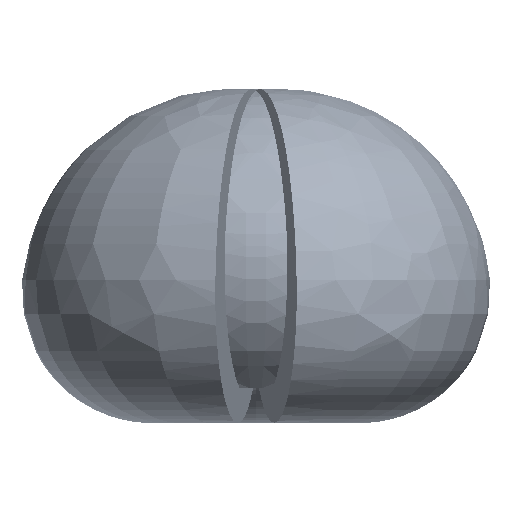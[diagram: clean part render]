
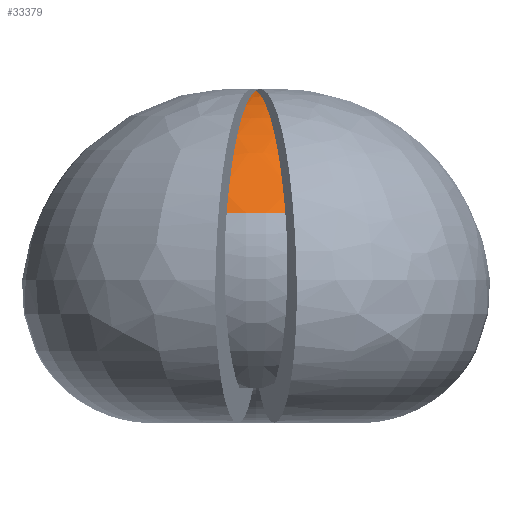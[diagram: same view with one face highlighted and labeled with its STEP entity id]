
A CAD part, left-side view. The second image highlights one B-rep face of the part: STEP entity #33379.
In plain terms, the highlighted free-form (B-spline) face has degree [3, 3] with [7, 4] control points.
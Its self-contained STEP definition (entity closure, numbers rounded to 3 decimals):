
#12464 = CARTESIAN_POINT ( 'NONE',  ( -1255.392, 221.359, 3530.053 ) ) ;
#27580 = CARTESIAN_POINT ( 'NONE',  ( -1281.28, -74.541, 3530.053 ) ) ;
#33379 = ADVANCED_FACE ( 'NONE', ( #257621 ), #205623, .T. ) ;
#35437 = EDGE_CURVE ( 'NONE', #55535, #223031, #36430, .T. ) ;
#36430 = CIRCLE ( 'NONE', #325231, 2525.163 ) ;
#48469 = CARTESIAN_POINT ( 'NONE',  ( -2486.8, -438.49, 2085.747 ) ) ;
#51179 = DIRECTION ( 'NONE',  ( 0., 0., -1. ) ) ;
#55535 = VERTEX_POINT ( 'NONE', #58892 ) ;
#58892 = CARTESIAN_POINT ( 'NONE',  ( -2486.8, -438.49, 2085.747 ) ) ;
#61325 = CARTESIAN_POINT ( 'NONE',  ( -2014.975, 117.226, 2957.866 ) ) ;
#63888 = CARTESIAN_POINT ( 'NONE',  ( -2337.263, 412.122, 2420.611 ) ) ;
#65994 = EDGE_LOOP ( 'NONE', ( #382897, #277897, #324086 ) ) ;
#100137 = CARTESIAN_POINT ( 'NONE',  ( -2014.975, -117.226, 2957.866 ) ) ;
#102645 = CARTESIAN_POINT ( 'NONE',  ( -2538.082, 147.659, 2085.747 ) ) ;
#105164 = CARTESIAN_POINT ( 'NONE',  ( -2385.46, 138.78, 2420.611 ) ) ;
#107716 = CARTESIAN_POINT ( 'NONE',  ( -596.452, 105.171, 3814.844 ) ) ;
#110205 = CARTESIAN_POINT ( 'NONE',  ( -2385.46, -138.78, 2420.611 ) ) ;
#120447 = CARTESIAN_POINT ( 'NONE',  ( 0., 0., 3918.321 ) ) ;
#128585 = CARTESIAN_POINT ( 'NONE',  ( -165.599, -29.2, 3899.58 ) ) ;
#185146 = CARTESIAN_POINT ( 'NONE',  ( -1255.392, 221.359, 3530.053 ) ) ;
#187679 = CARTESIAN_POINT ( 'NONE',  ( -169.014, -9.833, 3899.58 ) ) ;
#203879 = CARTESIAN_POINT ( 'NONE',  ( -2486.8, 438.49, 2085.747 ) ) ;
#205623 =( BOUNDED_SURFACE ( )  B_SPLINE_SURFACE ( 3, 3, ( 
 ( #420313, #415273, #102645, #296406 ),
 ( #417779, #110205, #105164, #63888 ),
 ( #454109, #100137, #61325, #500498 ),
 ( #267730, #27580, #260139, #185146 ),
 ( #342734, #218840, #303995, #107716 ),
 ( #265213, #187679, #422861, #503052 ),
 ( #316718, #280549, #350370, #120447 ) ),
 .UNSPECIFIED., .F., .F., .F. ) 
 B_SPLINE_SURFACE_WITH_KNOTS ( ( 4, 1, 1, 1, 4 ),
 ( 4, 4 ),
 ( 0.605, 0.739, 0.839, 0.939, 1. ),
 ( 0., 1. ),
 .UNSPECIFIED. ) 
 GEOMETRIC_REPRESENTATION_ITEM ( )  RATIONAL_B_SPLINE_SURFACE ( (
 ( 1., 0.99, 0.99, 1.),
 ( 1., 0.99, 0.99, 1.),
 ( 1., 0.99, 0.99, 1.),
 ( 1., 0.99, 0.99, 1.),
 ( 1., 0.99, 0.99, 1.),
 ( 1., 0.99, 0.99, 1.),
 ( 1., 0.99, 0.99, 1.) ) ) 
 REPRESENTATION_ITEM ( '' )  SURFACE ( )  );
#208715 = DIRECTION ( 'NONE',  ( -1., 0., 0. ) ) ;
#218840 = CARTESIAN_POINT ( 'NONE',  ( -608.751, -35.416, 3814.844 ) ) ;
#223031 = VERTEX_POINT ( 'NONE', #203879 ) ;
#247545 = CARTESIAN_POINT ( 'NONE',  ( -165.599, 29.2, 3899.58 ) ) ;
#254332 = B_SPLINE_CURVE_WITH_KNOTS ( 'NONE', 3,
 ( #322578, #247545, #451636, #12464, #255166, #480277, #412857 ),
 .UNSPECIFIED., .F., .F.,
 ( 4, 1, 1, 1, 4 ),
 ( 0.605, 0.667, 0.767, 0.867, 1. ),
 .UNSPECIFIED. ) ;
#255166 = CARTESIAN_POINT ( 'NONE',  ( -1974.263, 348.116, 2957.866 ) ) ;
#257621 = FACE_OUTER_BOUND ( 'NONE', #65994, .T. ) ;
#260139 = CARTESIAN_POINT ( 'NONE',  ( -1281.28, 74.541, 3530.053 ) ) ;
#265213 = CARTESIAN_POINT ( 'NONE',  ( -165.599, -29.2, 3899.58 ) ) ;
#267730 = CARTESIAN_POINT ( 'NONE',  ( -1255.392, -221.359, 3530.053 ) ) ;
#277897 = ORIENTED_EDGE ( 'NONE', *, *, #494193, .T. ) ;
#280549 = CARTESIAN_POINT ( 'NONE',  ( 0., 0., 3918.321 ) ) ;
#286613 = EDGE_CURVE ( 'NONE', #363581, #55535, #374440, .T. ) ;
#296406 = CARTESIAN_POINT ( 'NONE',  ( -2486.8, 438.49, 2085.747 ) ) ;
#303995 = CARTESIAN_POINT ( 'NONE',  ( -608.751, 35.416, 3814.844 ) ) ;
#316718 = CARTESIAN_POINT ( 'NONE',  ( 0., 0., 3918.321 ) ) ;
#322578 = CARTESIAN_POINT ( 'NONE',  ( 0., 0., 3918.321 ) ) ;
#324086 = ORIENTED_EDGE ( 'NONE', *, *, #35437, .F. ) ;
#325231 = AXIS2_PLACEMENT_3D ( 'NONE', #443944, #51179, #208715 ) ;
#335049 = CARTESIAN_POINT ( 'NONE',  ( -596.452, -105.171, 3814.844 ) ) ;
#342734 = CARTESIAN_POINT ( 'NONE',  ( -596.452, -105.171, 3814.844 ) ) ;
#350370 = CARTESIAN_POINT ( 'NONE',  ( 0., 0., 3918.321 ) ) ;
#363581 = VERTEX_POINT ( 'NONE', #432966 ) ;
#363650 = CARTESIAN_POINT ( 'NONE',  ( -2337.263, -412.122, 2420.611 ) ) ;
#366152 = CARTESIAN_POINT ( 'NONE',  ( -1974.263, -348.116, 2957.866 ) ) ;
#374440 = B_SPLINE_CURVE_WITH_KNOTS ( 'NONE', 3,
 ( #482594, #128585, #335049, #490215, #366152, #363650, #48469 ),
 .UNSPECIFIED., .F., .F.,
 ( 4, 1, 1, 1, 4 ),
 ( 0.605, 0.667, 0.767, 0.867, 1. ),
 .UNSPECIFIED. ) ;
#382897 = ORIENTED_EDGE ( 'NONE', *, *, #286613, .F. ) ;
#412857 = CARTESIAN_POINT ( 'NONE',  ( -2486.8, 438.49, 2085.747 ) ) ;
#415273 = CARTESIAN_POINT ( 'NONE',  ( -2538.082, -147.659, 2085.747 ) ) ;
#417779 = CARTESIAN_POINT ( 'NONE',  ( -2337.263, -412.122, 2420.611 ) ) ;
#420313 = CARTESIAN_POINT ( 'NONE',  ( -2486.8, -438.49, 2085.747 ) ) ;
#422861 = CARTESIAN_POINT ( 'NONE',  ( -169.014, 9.833, 3899.58 ) ) ;
#432966 = CARTESIAN_POINT ( 'NONE',  ( 0., 0., 3918.321 ) ) ;
#443944 = CARTESIAN_POINT ( 'NONE',  ( 0., 0., 2085.747 ) ) ;
#451636 = CARTESIAN_POINT ( 'NONE',  ( -596.452, 105.171, 3814.844 ) ) ;
#454109 = CARTESIAN_POINT ( 'NONE',  ( -1974.263, -348.116, 2957.866 ) ) ;
#480277 = CARTESIAN_POINT ( 'NONE',  ( -2337.263, 412.122, 2420.611 ) ) ;
#482594 = CARTESIAN_POINT ( 'NONE',  ( 0., 0., 3918.321 ) ) ;
#490215 = CARTESIAN_POINT ( 'NONE',  ( -1255.392, -221.359, 3530.053 ) ) ;
#494193 = EDGE_CURVE ( 'NONE', #363581, #223031, #254332, .T. ) ;
#500498 = CARTESIAN_POINT ( 'NONE',  ( -1974.263, 348.116, 2957.866 ) ) ;
#503052 = CARTESIAN_POINT ( 'NONE',  ( -165.599, 29.2, 3899.58 ) ) ;
